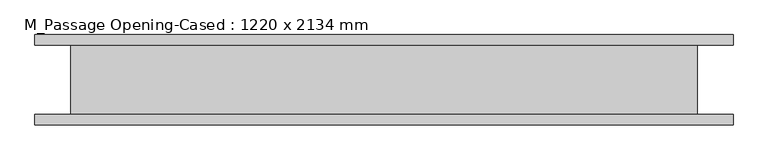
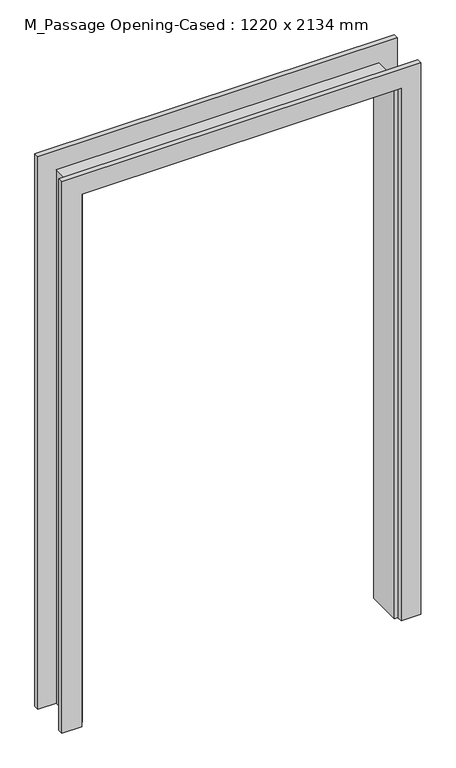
"""IFC4 building model written with IfcOpenShell, lengths in millimetres: proxy geometry, M_Passage Opening-Cased : 1220 x 2134 mm."""

from ifc_helpers import new_model, si_unit, frame, origin, place, context, project, spatial, polyline, outline, extrude, faceted_brep, source, transform, mapped, element, save


def m_passage_opening_cased_1220_x_2134_mm_87a8d9c2(model_context):
    return source(origin(), model_context, "Body", "SolidModel", [
        extrude(outline(polyline([(0.0, -611.8386567), (2127.65, -611.8386567), (2127.65, 595.4613433), (0.0, 595.4613433), (0.0, 670.4613433), (2202.65, 670.4613433), (2202.65, -686.8386567), (0.0, -686.8386567), (0.0, -611.8386567)])), frame((0.0, -87.75, 0.0), z_axis=(0.0, 1.0, 0.0), x_axis=(0.0, 0.0, 1.0)), (0.0, 0.0, 1.0), 20.0),
        extrude(outline(polyline([(0.0, 670.4613433), (2208.05, 670.4613433), (2208.05, -686.8386567), (0.0, -686.8386567), (0.0, -611.8386567), (2127.65, -611.8386567), (2127.65, 595.4613433), (0.0, 595.4613433), (0.0, 670.4613433)])), frame((0.0, 67.75, 0.0), z_axis=(0.0, 1.0, 0.0), x_axis=(0.0, 0.0, 1.0)), (0.0, 0.0, 1.0), 20.0),
        faceted_brep([(581.8113433, 67.75, 0.0), (600.8613433, 67.75, 0.0), (600.8613433, -67.75, 0.0), (581.8113433, -67.75, 0.0), (581.8113433, 67.75, 2114.0), (600.8613433, 67.75, 2133.05), (600.8613433, -67.75, 2133.05), (581.8113433, -67.75, 2114.0), (-598.1886567, 67.75, 2114.0), (-617.2386567, 67.75, 2133.05), (-617.2386567, -67.75, 2133.05), (-598.1886567, -67.75, 2114.0), (-598.1886567, 67.75, 0.0), (-598.1886567, -67.75, 0.0), (-617.2386567, -67.75, 0.0), (-617.2386567, 67.75, 0.0)], [[[0, 1, 2, 3]], [[1, 0, 4, 5]], [[2, 1, 5, 6]], [[3, 2, 6, 7]], [[0, 3, 7, 4]], [[5, 4, 8, 9]], [[6, 5, 9, 10]], [[7, 6, 10, 11]], [[4, 7, 11, 8]], [[12, 13, 14, 15]], [[9, 8, 12, 15]], [[10, 9, 15, 14]], [[11, 10, 14, 13]], [[8, 11, 13, 12]]]),
    ])


if __name__ == "__main__":
    model = new_model("IFC4")
    model_context = context("Model", 3, world=origin())
    ifc_project = project(units=[si_unit("LENGTHUNIT", "METRE", prefix="MILLI")], contexts=[model_context])
    site = spatial("IfcSite", under=ifc_project)
    building = spatial("IfcBuilding", under=site)
    placement = place(None, origin())
    m_passage_opening_cased_1220_x_2134_mm_shape = m_passage_opening_cased_1220_x_2134_mm_87a8d9c2(model_context)
    element("IfcBuildingElementProxy", 1, Name="M_Passage Opening-Cased : 1220 x 2134 mm", ObjectType="M_Passage Opening-Cased : 1220 x 2134 mm", at=placement, inside=building, context=model_context, shape_type="MappedRepresentation", body=[
        mapped(m_passage_opening_cased_1220_x_2134_mm_shape, transform((0.0, 0.0, 0.0), x_axis=(1.0, 0.0, 0.0), y_axis=(0.0, 1.0, 0.0), z_axis=(0.0, 0.0, 1.0))),
    ])
    save(model, "model.ifc")
